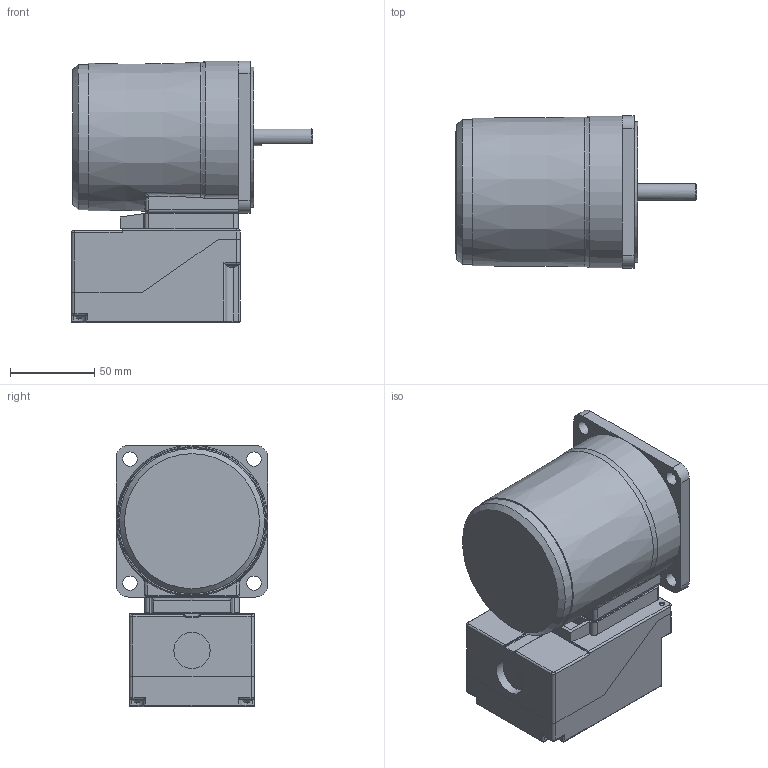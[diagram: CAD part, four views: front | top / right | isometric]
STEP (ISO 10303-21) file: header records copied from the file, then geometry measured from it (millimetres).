
FILE_DESCRIPTION(/* description */ (''),/* implementation_level */ '2;1');
FILE_NAME(/* name */ 'E:\도면작업\2016\0704) 미주향 SG 도면\3D MOTOR\TERMINAL BOX TYPE\INDUCTION TERMINAL BOX\SG9I40D_-T2.stp',/* time_stamp */ '2017-01-23T18:31:22+09:00',/* author */ ('jy-jung'),/* organization */ (''),/* preprocessor_version */ 'ST-DEVELOPER v15.6',/* originating_system */ 'Autodesk Inventor 2015',/* authorisation */ '');
FILE_SCHEMA (('AUTOMOTIVE_DESIGN { 1 0 10303 214 3 1 1 }'));
Length unit declared in the file: millimetre
Products named in the file (1): 부품4
Bounding box: 142.9 x 90 x 155 mm (x, y, z)
Volume: 789784.9 mm3; surface area: 130399.9 mm2
Topology: 1 solids, 5 shells, 843 faces, 2240 edges, 1429 vertices
Faces by surface type: plane 439, cylinder 291, bspline 51, torus 30, cone 20, sphere 12
Full cylindrical faces by diameter (mm): 2.5 x4, 3 x4, 3.2 x3, 3.4 x1, 4.2 x1, 4.5 x8, 5.5 x8, 6.9 x4, 8.5 x4, 10 x1, 21.5 x1, 40 x1, 83 x1, 86 x1
Entity records: 28193 total; most frequent: CARTESIAN_POINT 6721, DIRECTION 4268, ORIENTED_EDGE 4250, EDGE_CURVE 2125, AXIS2_PLACEMENT_3D 1502, VERTEX_POINT 1411, LINE 1264, VECTOR 1264
